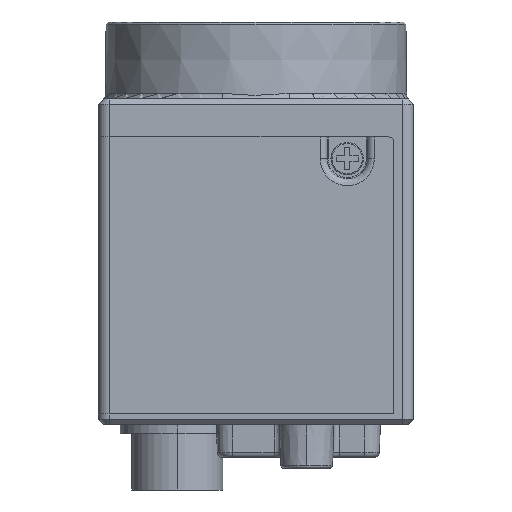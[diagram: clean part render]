
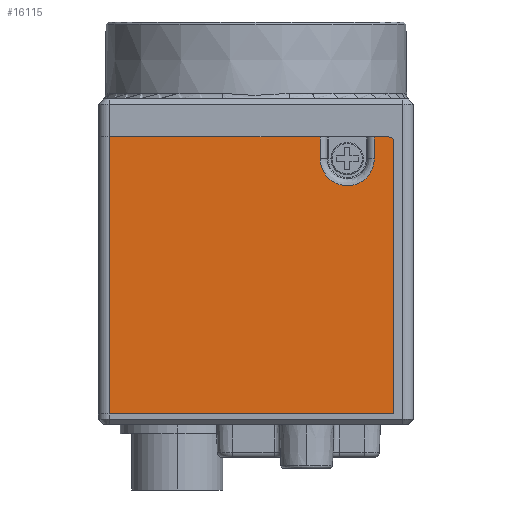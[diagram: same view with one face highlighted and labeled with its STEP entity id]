
A CAD part, left-side view. The second image highlights one B-rep face of the part: STEP entity #16115.
In plain terms, the highlighted planar face has unit normal (-1, 0, 0).
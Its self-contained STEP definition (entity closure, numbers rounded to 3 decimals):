
#17 = CARTESIAN_POINT ( 'NONE',  ( -14.5, -5.915, 9.132 ) ) ;
#172 = DIRECTION ( 'NONE',  ( 0., -1., 0. ) ) ;
#239 = ORIENTED_EDGE ( 'NONE', *, *, #455, .F. ) ;
#341 = CARTESIAN_POINT ( 'NONE',  ( -14.5, -5.915, 2.412 ) ) ;
#455 = EDGE_CURVE ( 'NONE', #3273, #7188, #1924, .T. ) ;
#718 = EDGE_CURVE ( 'NONE', #17135, #15824, #16698, .T. ) ;
#752 = EDGE_LOOP ( 'NONE', ( #1361, #9648, #4280, #9852, #17096, #239, #10673, #6754, #6003 ) ) ;
#857 = CARTESIAN_POINT ( 'NONE',  ( -14.5, -12.2, 9.382 ) ) ;
#1361 = ORIENTED_EDGE ( 'NONE', *, *, #11219, .F. ) ;
#1487 = CARTESIAN_POINT ( 'NONE',  ( -14.5, -12.5, 9.132 ) ) ;
#1506 = CARTESIAN_POINT ( 'NONE',  ( -14.5, -10.885, 9.132 ) ) ;
#1743 = EDGE_CURVE ( 'NONE', #7188, #17135, #2839, .T. ) ;
#1924 = LINE ( 'NONE', #10275, #17344 ) ;
#1966 = CARTESIAN_POINT ( 'NONE',  ( -14.5, -12.7, -16.118 ) ) ;
#2172 = CARTESIAN_POINT ( 'NONE',  ( -14.5, 13.5, 9.132 ) ) ;
#2839 = CIRCLE ( 'NONE', #14379, 0.5 ) ;
#2860 = PLANE ( 'NONE',  #3042 ) ;
#3042 = AXIS2_PLACEMENT_3D ( 'NONE', #1487, #15177, #6980 ) ;
#3165 = CARTESIAN_POINT ( 'NONE',  ( -14.5, -10.885, 7.382 ) ) ;
#3228 = CARTESIAN_POINT ( 'NONE',  ( -14.5, 13.5, -16.118 ) ) ;
#3273 = VERTEX_POINT ( 'NONE', #15549 ) ;
#3294 = VECTOR ( 'NONE', #10377, 1000. ) ;
#3680 = CARTESIAN_POINT ( 'NONE',  ( -14.5, -12.7, 8.882 ) ) ;
#4280 = ORIENTED_EDGE ( 'NONE', *, *, #10895, .F. ) ;
#4865 = VECTOR ( 'NONE', #9715, 1000. ) ;
#5110 = DIRECTION ( 'NONE',  ( 0., 1., 0. ) ) ;
#5662 = VERTEX_POINT ( 'NONE', #12830 ) ;
#6003 = ORIENTED_EDGE ( 'NONE', *, *, #13861, .F. ) ;
#6484 = LINE ( 'NONE', #2172, #3294 ) ;
#6754 = ORIENTED_EDGE ( 'NONE', *, *, #16235, .F. ) ;
#6980 = DIRECTION ( 'NONE',  ( 0., 0., -1. ) ) ;
#7188 = VERTEX_POINT ( 'NONE', #857 ) ;
#7230 = CARTESIAN_POINT ( 'NONE',  ( -14.5, -10.885, 7.382 ) ) ;
#7872 = VERTEX_POINT ( 'NONE', #3165 ) ;
#7978 = VERTEX_POINT ( 'NONE', #3228 ) ;
#8164 = DIRECTION ( 'NONE',  ( 0., 0., -1. ) ) ;
#8891 = LINE ( 'NONE', #10387, #12940 ) ;
#9395 =( BOUNDED_CURVE ( )  B_SPLINE_CURVE ( 3, ( #14025, #341, #15396, #7230 ),
 .UNSPECIFIED., .F., .T. ) 
 B_SPLINE_CURVE_WITH_KNOTS ( ( 4, 4 ),
 ( 0., 1. ),
 .UNSPECIFIED. ) 
 CURVE ( )  GEOMETRIC_REPRESENTATION_ITEM ( )  RATIONAL_B_SPLINE_CURVE ( ( 1., 0.333, 0.333, 1. ) ) 
 REPRESENTATION_ITEM ( '' )  );
#9557 = CARTESIAN_POINT ( 'NONE',  ( -14.5, -12.2, 8.882 ) ) ;
#9648 = ORIENTED_EDGE ( 'NONE', *, *, #9911, .F. ) ;
#9715 = DIRECTION ( 'NONE',  ( 0., 0., 1. ) ) ;
#9852 = ORIENTED_EDGE ( 'NONE', *, *, #718, .F. ) ;
#9911 = EDGE_CURVE ( 'NONE', #7978, #12986, #6484, .T. ) ;
#10275 = CARTESIAN_POINT ( 'NONE',  ( -14.5, -12.5, 9.382 ) ) ;
#10377 = DIRECTION ( 'NONE',  ( 0., 0., 1. ) ) ;
#10387 = CARTESIAN_POINT ( 'NONE',  ( -14.5, -12.5, -16.118 ) ) ;
#10673 = ORIENTED_EDGE ( 'NONE', *, *, #17347, .F. ) ;
#10895 = EDGE_CURVE ( 'NONE', #15824, #7978, #8891, .T. ) ;
#10913 = VECTOR ( 'NONE', #12606, 1000. ) ;
#11219 = EDGE_CURVE ( 'NONE', #12986, #12860, #17591, .T. ) ;
#11708 = LINE ( 'NONE', #1506, #4865 ) ;
#12461 = LINE ( 'NONE', #17, #12893 ) ;
#12606 = DIRECTION ( 'NONE',  ( 0., -1., 0. ) ) ;
#12830 = CARTESIAN_POINT ( 'NONE',  ( -14.5, -5.915, 7.382 ) ) ;
#12860 = VERTEX_POINT ( 'NONE', #16488 ) ;
#12893 = VECTOR ( 'NONE', #13702, 1000. ) ;
#12940 = VECTOR ( 'NONE', #5110, 1000. ) ;
#12986 = VERTEX_POINT ( 'NONE', #16442 ) ;
#13702 = DIRECTION ( 'NONE',  ( 0., 0., -1. ) ) ;
#13861 = EDGE_CURVE ( 'NONE', #12860, #5662, #12461, .T. ) ;
#13989 = CARTESIAN_POINT ( 'NONE',  ( -14.5, -12.5, 9.382 ) ) ;
#14025 = CARTESIAN_POINT ( 'NONE',  ( -14.5, -5.915, 7.382 ) ) ;
#14379 = AXIS2_PLACEMENT_3D ( 'NONE', #9557, #17738, #8164 ) ;
#15177 = DIRECTION ( 'NONE',  ( 1., 0., 0. ) ) ;
#15396 = CARTESIAN_POINT ( 'NONE',  ( -14.5, -10.885, 2.412 ) ) ;
#15549 = CARTESIAN_POINT ( 'NONE',  ( -14.5, -10.885, 9.382 ) ) ;
#15824 = VERTEX_POINT ( 'NONE', #1966 ) ;
#16115 = ADVANCED_FACE ( 'NONE', ( #17026 ), #2860, .F. ) ;
#16235 = EDGE_CURVE ( 'NONE', #5662, #7872, #9395, .T. ) ;
#16273 = VECTOR ( 'NONE', #16546, 1000. ) ;
#16442 = CARTESIAN_POINT ( 'NONE',  ( -14.5, 13.5, 9.382 ) ) ;
#16488 = CARTESIAN_POINT ( 'NONE',  ( -14.5, -5.915, 9.382 ) ) ;
#16546 = DIRECTION ( 'NONE',  ( 0., 0., -1. ) ) ;
#16665 = CARTESIAN_POINT ( 'NONE',  ( -14.5, -12.7, 9.132 ) ) ;
#16698 = LINE ( 'NONE', #16665, #16273 ) ;
#17026 = FACE_OUTER_BOUND ( 'NONE', #752, .T. ) ;
#17096 = ORIENTED_EDGE ( 'NONE', *, *, #1743, .F. ) ;
#17135 = VERTEX_POINT ( 'NONE', #3680 ) ;
#17344 = VECTOR ( 'NONE', #172, 1000. ) ;
#17347 = EDGE_CURVE ( 'NONE', #7872, #3273, #11708, .T. ) ;
#17591 = LINE ( 'NONE', #13989, #10913 ) ;
#17738 = DIRECTION ( 'NONE',  ( 1., 0., 0. ) ) ;
